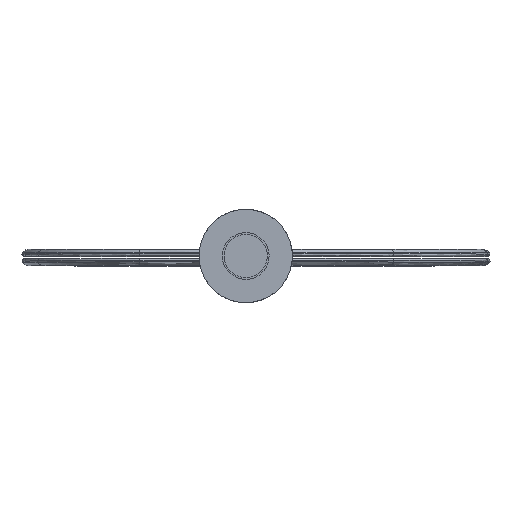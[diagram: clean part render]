
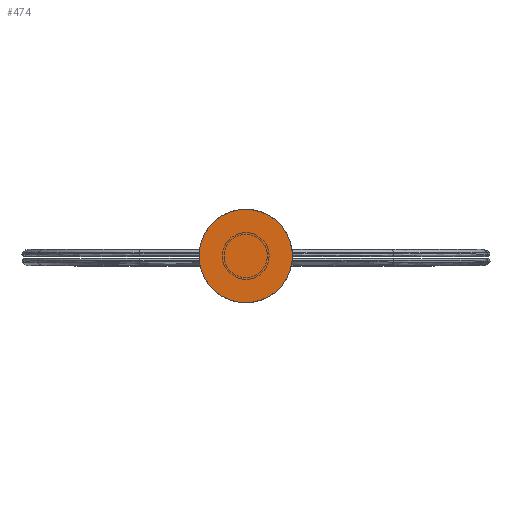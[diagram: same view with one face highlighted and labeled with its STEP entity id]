
A CAD part, top view. The second image highlights one B-rep face of the part: STEP entity #474.
In plain terms, the highlighted free-form (B-spline) face has degree [1, 1] with [2, 2] control points.
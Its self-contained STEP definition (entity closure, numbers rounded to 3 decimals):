
#31=B_SPLINE_SURFACE_WITH_KNOTS('',1,1,((#17512,#17513),(#17514,#17515)),
 .UNSPECIFIED.,.F.,.F.,.F.,(2,2),(2,2),(-48.12,48.12),(-48.12,
48.12),.UNSPECIFIED.);
#474=ADVANCED_FACE('',(#932),#31,.T.);
#932=FACE_OUTER_BOUND('',#1394,.T.);
#1394=EDGE_LOOP('',(#1998,#1999));
#1998=ORIENTED_EDGE('',*,*,#13419,.T.);
#1999=ORIENTED_EDGE('',*,*,#13420,.T.);
#4374=PCURVE('',#31,#6750);
#4375=PCURVE('',#31,#6751);
#4380=PCURVE('',#15684,#6756);
#4382=PCURVE('',#15685,#6758);
#6750=DEFINITIONAL_REPRESENTATION('',(#14598),#34445);
#6751=DEFINITIONAL_REPRESENTATION('',(#14600),#34445);
#6756=DEFINITIONAL_REPRESENTATION('',(#9139),#34445);
#6758=DEFINITIONAL_REPRESENTATION('',(#9142),#34445);
#9139=B_SPLINE_CURVE_WITH_KNOTS('',1,(#17606,#17607),.UNSPECIFIED.,.F.,
 .F.,(2,2),(-251.327,-125.664),.UNSPECIFIED.);
#9142=B_SPLINE_CURVE_WITH_KNOTS('',1,(#17612,#17613),.UNSPECIFIED.,.F.,
 .F.,(2,2),(-125.664,0.),.UNSPECIFIED.);
#12231=SURFACE_CURVE('',#14597,(#4374,#4382),.PCURVE_S1.);
#12232=SURFACE_CURVE('',#14599,(#4375,#4380),.PCURVE_S1.);
#13419=EDGE_CURVE('',#14936,#14937,#12231,.T.);
#13420=EDGE_CURVE('',#14937,#14936,#12232,.T.);
#14597=(
BOUNDED_CURVE()
B_SPLINE_CURVE(2,(#17560,#17561,#17562,#17563,#17564),.UNSPECIFIED.,.F.,
 .F.)
B_SPLINE_CURVE_WITH_KNOTS((3,2,3),(-125.664,-62.832,
0.),.UNSPECIFIED.)
CURVE()
GEOMETRIC_REPRESENTATION_ITEM()
RATIONAL_B_SPLINE_CURVE((1.,0.707,1.,0.707,1.))
REPRESENTATION_ITEM('')
);
#14598=(
BOUNDED_CURVE()
B_SPLINE_CURVE(2,(#17565,#17566,#17567,#17568,#17569),.UNSPECIFIED.,.F.,
 .F.)
B_SPLINE_CURVE_WITH_KNOTS((3,2,3),(-125.664,-62.832,
0.),.UNSPECIFIED.)
CURVE()
GEOMETRIC_REPRESENTATION_ITEM()
RATIONAL_B_SPLINE_CURVE((1.,0.707,1.,0.707,1.))
REPRESENTATION_ITEM('')
);
#14599=(
BOUNDED_CURVE()
B_SPLINE_CURVE(2,(#17570,#17571,#17572,#17573,#17574),.UNSPECIFIED.,.F.,
 .F.)
B_SPLINE_CURVE_WITH_KNOTS((3,2,3),(-251.327,-188.496,
-125.664),.UNSPECIFIED.)
CURVE()
GEOMETRIC_REPRESENTATION_ITEM()
RATIONAL_B_SPLINE_CURVE((1.,0.707,1.,0.707,1.))
REPRESENTATION_ITEM('')
);
#14600=(
BOUNDED_CURVE()
B_SPLINE_CURVE(2,(#17575,#17576,#17577,#17578,#17579),.UNSPECIFIED.,.F.,
 .F.)
B_SPLINE_CURVE_WITH_KNOTS((3,2,3),(-251.327,-188.496,
-125.664),.UNSPECIFIED.)
CURVE()
GEOMETRIC_REPRESENTATION_ITEM()
RATIONAL_B_SPLINE_CURVE((1.,0.707,1.,0.707,1.))
REPRESENTATION_ITEM('')
);
#14936=VERTEX_POINT('',#17556);
#14937=VERTEX_POINT('',#17557);
#15684=(
BOUNDED_SURFACE()
B_SPLINE_SURFACE(2,1,((#17520,#17521),(#17522,#17523),(#17524,#17525),(#17526,
#17527),(#17528,#17529),(#17530,#17531),(#17532,#17533),(#17534,#17535),
(#17536,#17537)),.UNSPECIFIED.,.T.,.F.,.F.)
B_SPLINE_SURFACE_WITH_KNOTS((3,2,2,2,3),(2,2),(0.,62.832,125.664,
188.496,251.327),(0.,2.04),.UNSPECIFIED.)
GEOMETRIC_REPRESENTATION_ITEM()
RATIONAL_B_SPLINE_SURFACE(((1.,1.),(0.707,0.707),
(1.,1.),(0.707,0.707),(1.,1.),(0.707,
0.707),(1.,1.),(0.707,0.707),(1.,1.)))
REPRESENTATION_ITEM('')
SURFACE()
);
#15685=(
BOUNDED_SURFACE()
B_SPLINE_SURFACE(2,1,((#17538,#17539),(#17540,#17541),(#17542,#17543),(#17544,
#17545),(#17546,#17547),(#17548,#17549),(#17550,#17551),(#17552,#17553),
(#17554,#17555)),.UNSPECIFIED.,.T.,.F.,.F.)
B_SPLINE_SURFACE_WITH_KNOTS((3,2,2,2,3),(2,2),(0.,62.832,125.664,
188.496,251.327),(0.,2.04),.UNSPECIFIED.)
GEOMETRIC_REPRESENTATION_ITEM()
RATIONAL_B_SPLINE_SURFACE(((1.,1.),(0.707,0.707),
(1.,1.),(0.707,0.707),(1.,1.),(0.707,
0.707),(1.,1.),(0.707,0.707),(1.,1.)))
REPRESENTATION_ITEM('')
SURFACE()
);
#17512=CARTESIAN_POINT('',(-48.12,48.12,605.295));
#17513=CARTESIAN_POINT('',(48.12,48.12,605.295));
#17514=CARTESIAN_POINT('',(-48.12,-48.12,605.295));
#17515=CARTESIAN_POINT('',(48.12,-48.12,605.295));
#17520=CARTESIAN_POINT('',(40.,0.,603.525));
#17521=CARTESIAN_POINT('',(40.,0.,605.565));
#17522=CARTESIAN_POINT('',(40.,40.,603.525));
#17523=CARTESIAN_POINT('',(40.,40.,605.565));
#17524=CARTESIAN_POINT('',(0.,40.,603.525));
#17525=CARTESIAN_POINT('',(0.,40.,605.565));
#17526=CARTESIAN_POINT('',(-40.,40.,603.525));
#17527=CARTESIAN_POINT('',(-40.,40.,605.565));
#17528=CARTESIAN_POINT('',(-40.,0.,603.525));
#17529=CARTESIAN_POINT('',(-40.,0.,605.565));
#17530=CARTESIAN_POINT('',(-40.,-40.,603.525));
#17531=CARTESIAN_POINT('',(-40.,-40.,605.565));
#17532=CARTESIAN_POINT('',(0.,-40.,603.525));
#17533=CARTESIAN_POINT('',(0.,-40.,605.565));
#17534=CARTESIAN_POINT('',(40.,-40.,603.525));
#17535=CARTESIAN_POINT('',(40.,-40.,605.565));
#17536=CARTESIAN_POINT('',(40.,0.,603.525));
#17537=CARTESIAN_POINT('',(40.,0.,605.565));
#17538=CARTESIAN_POINT('',(40.,0.,603.525));
#17539=CARTESIAN_POINT('',(40.,0.,605.565));
#17540=CARTESIAN_POINT('',(40.,40.,603.525));
#17541=CARTESIAN_POINT('',(40.,40.,605.565));
#17542=CARTESIAN_POINT('',(0.,40.,603.525));
#17543=CARTESIAN_POINT('',(0.,40.,605.565));
#17544=CARTESIAN_POINT('',(-40.,40.,603.525));
#17545=CARTESIAN_POINT('',(-40.,40.,605.565));
#17546=CARTESIAN_POINT('',(-40.,0.,603.525));
#17547=CARTESIAN_POINT('',(-40.,0.,605.565));
#17548=CARTESIAN_POINT('',(-40.,-40.,603.525));
#17549=CARTESIAN_POINT('',(-40.,-40.,605.565));
#17550=CARTESIAN_POINT('',(0.,-40.,603.525));
#17551=CARTESIAN_POINT('',(0.,-40.,605.565));
#17552=CARTESIAN_POINT('',(40.,-40.,603.525));
#17553=CARTESIAN_POINT('',(40.,-40.,605.565));
#17554=CARTESIAN_POINT('',(40.,0.,603.525));
#17555=CARTESIAN_POINT('',(40.,0.,605.565));
#17556=CARTESIAN_POINT('',(40.,0.,605.295));
#17557=CARTESIAN_POINT('',(-40.,0.,605.295));
#17560=CARTESIAN_POINT('',(40.,0.,605.295));
#17561=CARTESIAN_POINT('',(40.,40.,605.295));
#17562=CARTESIAN_POINT('',(0.,40.,605.295));
#17563=CARTESIAN_POINT('',(-40.,40.,605.295));
#17564=CARTESIAN_POINT('',(-40.,0.,605.295));
#17565=CARTESIAN_POINT('',(0.,40.));
#17566=CARTESIAN_POINT('',(-40.,40.));
#17567=CARTESIAN_POINT('',(-40.,0.));
#17568=CARTESIAN_POINT('',(-40.,-40.));
#17569=CARTESIAN_POINT('',(0.,-40.));
#17570=CARTESIAN_POINT('',(-40.,0.,605.295));
#17571=CARTESIAN_POINT('',(-40.,-40.,605.295));
#17572=CARTESIAN_POINT('',(0.,-40.,605.295));
#17573=CARTESIAN_POINT('',(40.,-40.,605.295));
#17574=CARTESIAN_POINT('',(40.,0.,605.295));
#17575=CARTESIAN_POINT('',(0.,-40.));
#17576=CARTESIAN_POINT('',(40.,-40.));
#17577=CARTESIAN_POINT('',(40.,0.));
#17578=CARTESIAN_POINT('',(40.,40.));
#17579=CARTESIAN_POINT('',(0.,40.));
#17606=CARTESIAN_POINT('',(125.664,1.77));
#17607=CARTESIAN_POINT('',(251.327,1.77));
#17612=CARTESIAN_POINT('',(0.,1.77));
#17613=CARTESIAN_POINT('',(125.664,1.77));
#34445=(
GEOMETRIC_REPRESENTATION_CONTEXT(2)
PARAMETRIC_REPRESENTATION_CONTEXT()
REPRESENTATION_CONTEXT('pspace','')
);
